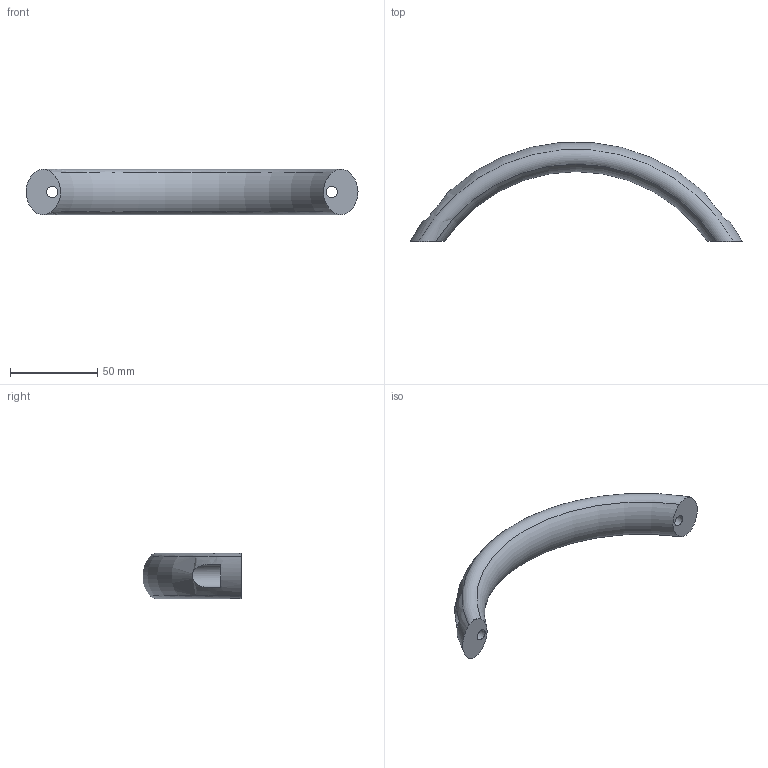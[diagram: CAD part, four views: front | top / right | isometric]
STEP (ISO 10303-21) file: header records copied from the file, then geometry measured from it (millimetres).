
FILE_DESCRIPTION( ( 'STEP AP203' ), '1' );
FILE_NAME( 'C:/Temp/Ganter_Step_05_03_2020/data/1_2/gn_565_4/Arch handle GN 565.4-26-160-B-SR.stp', '2020-03-05T10:12:35', ( 'License CC BY-ND 4.0' ), ( 'CADENAS' ), ' ', 'PARTsolutions', ' ' );
FILE_SCHEMA( ( 'CONFIG_CONTROL_DESIGN' ) );
Length unit declared in the file: millimetre
Products named in the file (1): _Arch handle GN 565.4-26-160-B-SR
Bounding box: 190 x 56.64 x 25.97 mm (x, y, z)
Volume: 65746.6 mm3; surface area: 15788.2 mm2
Topology: 1 solids, 1 shells, 20 faces, 44 edges, 30 vertices
Faces by surface type: plane 10, cylinder 6, torus 4
Full cylindrical faces by diameter (mm): 6.4 x2, 13 x2
Entity records: 842 total; most frequent: CARTESIAN_POINT 377, DIRECTION 86, ORIENTED_EDGE 76, AXIS2_PLACEMENT_3D 39, EDGE_CURVE 38, EDGE_LOOP 32, VERTEX_POINT 28, FACE_OUTER_BOUND 24
